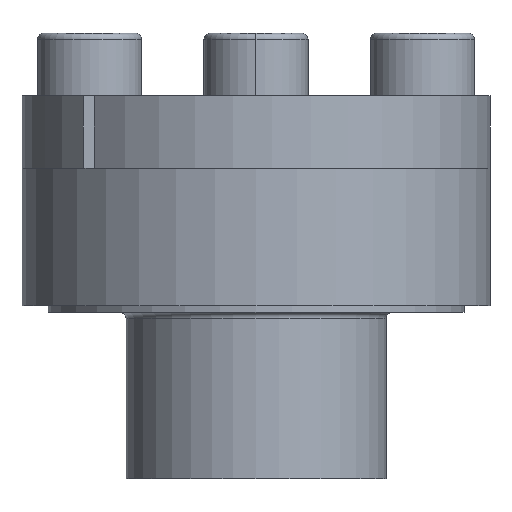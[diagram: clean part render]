
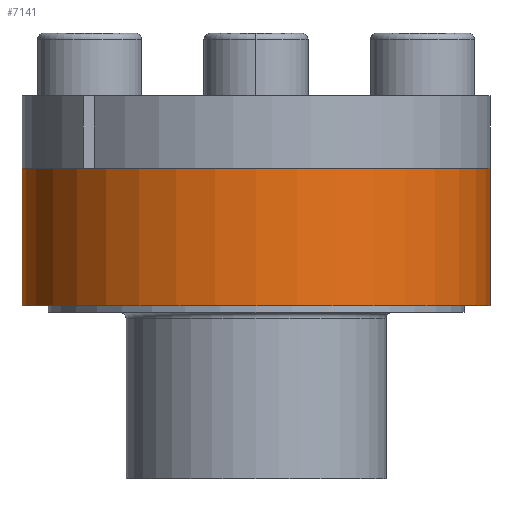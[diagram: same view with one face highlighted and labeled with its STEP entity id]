
A CAD part, front view. The second image highlights one B-rep face of the part: STEP entity #7141.
In plain terms, the highlighted cylindrical face has radius 22.5 mm (diameter 45 mm), a partial arc.
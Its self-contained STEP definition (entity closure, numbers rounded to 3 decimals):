
#83 = DIRECTION ( 'NONE',  ( 0., 0., -1. ) ) ;
#504 = CARTESIAN_POINT ( 'NONE',  ( 22.5, 0., -8.365 ) ) ;
#1192 = DIRECTION ( 'NONE',  ( -1., 0., 0. ) ) ;
#1241 = CIRCLE ( 'NONE', #2813, 22.5 ) ;
#1764 = CARTESIAN_POINT ( 'NONE',  ( -22.5, 0., 4.835 ) ) ;
#2000 = VECTOR ( 'NONE', #3753, 1000. ) ;
#2210 = CARTESIAN_POINT ( 'NONE',  ( -22.5, 0., -8.365 ) ) ;
#2813 = AXIS2_PLACEMENT_3D ( 'NONE', #3671, #7930, #4261 ) ;
#3026 = CARTESIAN_POINT ( 'NONE',  ( 0., 0., 4.835 ) ) ;
#3506 = CYLINDRICAL_SURFACE ( 'NONE', #6330, 22.5 ) ;
#3636 = DIRECTION ( 'NONE',  ( 1., 0., 0. ) ) ;
#3671 = CARTESIAN_POINT ( 'NONE',  ( 0., 0., -8.365 ) ) ;
#3753 = DIRECTION ( 'NONE',  ( 0., 0., -1. ) ) ;
#3755 = CARTESIAN_POINT ( 'NONE',  ( -22.5, 0., 4.835 ) ) ;
#4006 = AXIS2_PLACEMENT_3D ( 'NONE', #3026, #7274, #3636 ) ;
#4207 = VERTEX_POINT ( 'NONE', #2210 ) ;
#4261 = DIRECTION ( 'NONE',  ( 1., 0., 0. ) ) ;
#4882 = CIRCLE ( 'NONE', #4006, 22.5 ) ;
#5162 = EDGE_CURVE ( 'NONE', #6478, #5995, #5188, .T. ) ;
#5188 = LINE ( 'NONE', #7397, #2000 ) ;
#5458 = VERTEX_POINT ( 'NONE', #1764 ) ;
#5538 = EDGE_CURVE ( 'NONE', #5458, #6478, #4882, .T. ) ;
#5615 = ORIENTED_EDGE ( 'NONE', *, *, #6224, .T. ) ;
#5682 = EDGE_CURVE ( 'NONE', #5458, #4207, #6049, .T. ) ;
#5807 = ORIENTED_EDGE ( 'NONE', *, *, #5162, .F. ) ;
#5864 = FACE_OUTER_BOUND ( 'NONE', #6508, .T. ) ;
#5995 = VERTEX_POINT ( 'NONE', #504 ) ;
#6049 = LINE ( 'NONE', #3755, #7475 ) ;
#6147 = ORIENTED_EDGE ( 'NONE', *, *, #5538, .F. ) ;
#6178 = ORIENTED_EDGE ( 'NONE', *, *, #5682, .T. ) ;
#6224 = EDGE_CURVE ( 'NONE', #4207, #5995, #1241, .T. ) ;
#6330 = AXIS2_PLACEMENT_3D ( 'NONE', #7202, #6646, #1192 ) ;
#6478 = VERTEX_POINT ( 'NONE', #7084 ) ;
#6508 = EDGE_LOOP ( 'NONE', ( #5807, #6147, #6178, #5615 ) ) ;
#6646 = DIRECTION ( 'NONE',  ( 0., 0., -1. ) ) ;
#7084 = CARTESIAN_POINT ( 'NONE',  ( 22.5, 0., 4.835 ) ) ;
#7141 = ADVANCED_FACE ( 'NONE', ( #5864 ), #3506, .T. ) ;
#7202 = CARTESIAN_POINT ( 'NONE',  ( 0., 0., 4.835 ) ) ;
#7274 = DIRECTION ( 'NONE',  ( 0., 0., 1. ) ) ;
#7397 = CARTESIAN_POINT ( 'NONE',  ( 22.5, 0., 4.835 ) ) ;
#7475 = VECTOR ( 'NONE', #83, 1000. ) ;
#7930 = DIRECTION ( 'NONE',  ( 0., 0., 1. ) ) ;
